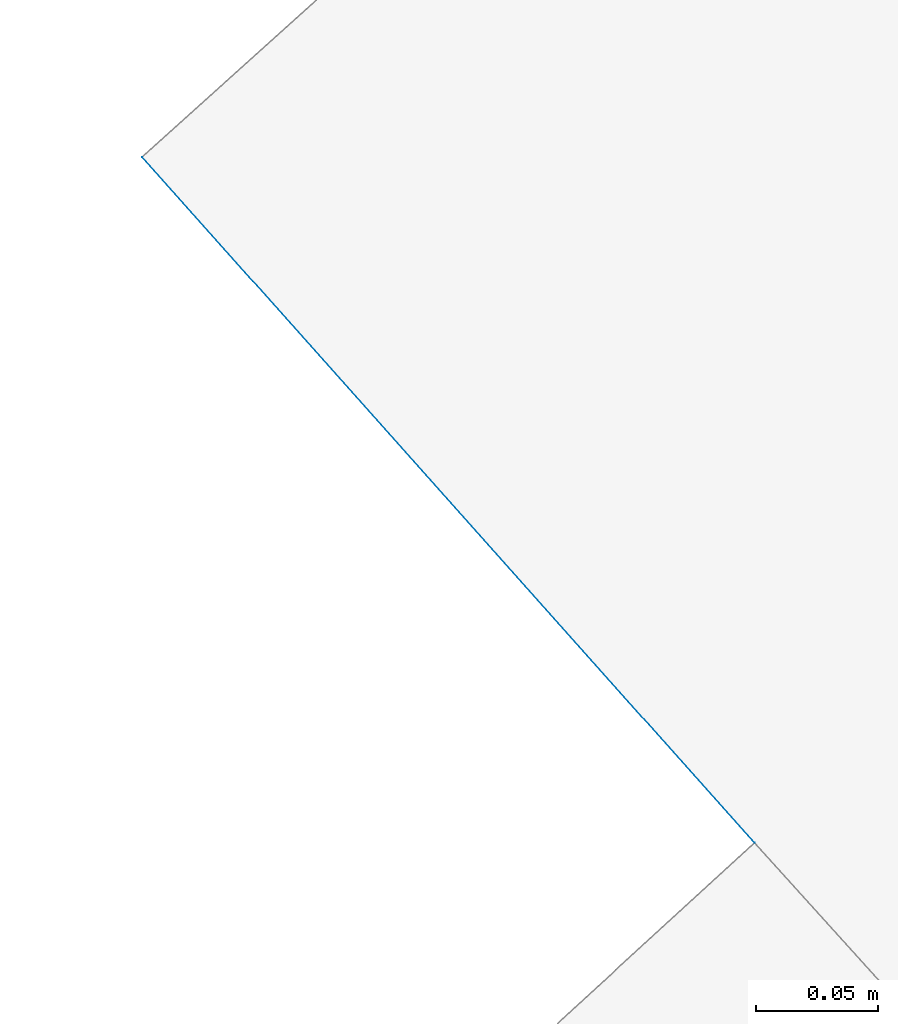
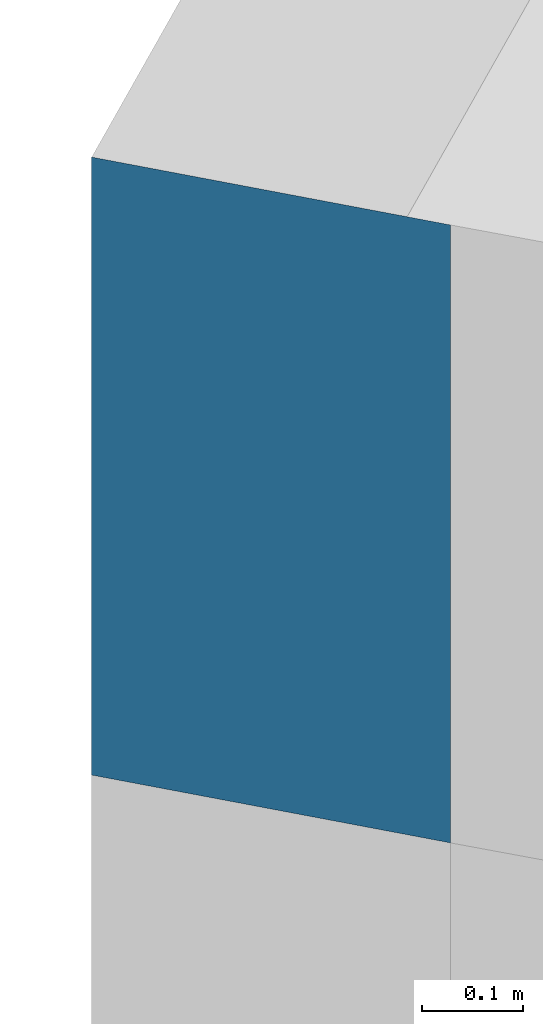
# Not in any storey, part 87 of 136: 2 walls.
"""IFC2X3 building model written with IfcOpenShell, lengths in metres."""

import ifcopenshell
import ifcopenshell.guid

model = None  # the IFC model being written
_history = None  # IfcOwnerHistory: only IFC2X3 demands one
_inside = {}  # id of a spatial element -> (the spatial element, [elements in it])
_under = {}  # id of a project, library or spatial element -> (it, [spatial elements below it])
_declared = {}  # id of a project -> (the project, [libraries it declares])
_typed = {}  # id of a type object -> (the type object, [elements of that type])
_made_of = {}  # id of a material, layer set ... -> (it, [elements and type objects made of it])


def new_model(schema):
    """Start an empty IFC model of exactly this schema.

    Asked for "IFC4X3", IfcOpenShell would pick the latest addendum, in which some entities
    have other attributes; the version numbers below select the first issue.
    IFC2X3 requires an IfcOwnerHistory on every rooted entity: one is made here for all.
    """
    global model, _history
    if schema == "IFC4X3":
        model = ifcopenshell.file(schema_version=(4, 3, 0, 0))
    else:
        model = ifcopenshell.file(schema=schema)
    _inside.clear()
    _under.clear()
    _declared.clear()
    _typed.clear()
    _made_of.clear()
    _history = None
    if model.schema == "IFC2X3":
        org = make("IfcOrganization", Name="unknown")
        user = make(
            "IfcPersonAndOrganization",
            ThePerson=make("IfcPerson", FamilyName="unknown"),
            TheOrganization=org,
        )
        app = make(
            "IfcApplication",
            ApplicationDeveloper=org,
            Version="unknown",
            ApplicationFullName="unknown",
            ApplicationIdentifier="unknown",
        )
        _history = make(
            "IfcOwnerHistory",
            OwningUser=user,
            OwningApplication=app,
            ChangeAction="ADDED",
            CreationDate=0,
        )
    return model


def make(cls, **values):
    """One entity of the class cls with the attributes given. An attribute that is None is left unset."""
    return model.create_entity(
        cls, **{name: value for name, value in values.items() if value is not None}
    )


def entity(cls, *values):
    """Any entity or typed value of the class cls, its attributes in the order of the schema. None: left unset."""
    e = model.create_entity(cls)
    for i, value in enumerate(values):
        if value is not None:
            e[i] = value
    return e


def rooted(cls, **values):
    """An entity with a GlobalId (a new one), such as an element, a storey or a relation."""
    return make(cls, GlobalId=ifcopenshell.guid.new(), OwnerHistory=_history, **values)


def si_unit(unit_type, name, prefix=None):
    """IfcSIUnit, for example si_unit("LENGTHUNIT", "METRE", prefix="MILLI")."""
    return make("IfcSIUnit", UnitType=unit_type, Prefix=prefix, Name=name)


def converted_unit(unit_type, name, factor, base, dimensions=None, offset=None):
    """IfcConversionBasedUnit, such as the inch: factor (a typed value) times the base unit."""
    return make(
        "IfcConversionBasedUnit"
        if offset is None
        else "IfcConversionBasedUnitWithOffset",
        ConversionOffset=offset,
        Dimensions=None
        if dimensions is None
        else entity("IfcDimensionalExponents", *dimensions),
        UnitType=unit_type,
        Name=name,
        ConversionFactor=make(
            "IfcMeasureWithUnit", ValueComponent=factor, UnitComponent=base
        ),
    )


def assignment(units):
    """IfcUnitAssignment: the units of a project."""
    return None if units is None else make("IfcUnitAssignment", Units=units)


def point(xyz):
    """IfcCartesianPoint."""
    return None if xyz is None else make("IfcCartesianPoint", Coordinates=xyz)


def direction(xyz):
    """IfcDirection."""
    return None if xyz is None else make("IfcDirection", DirectionRatios=xyz)


def frame(location, z_axis=None, x_axis=None):
    """IfcAxis2Placement3D, a coordinate frame: its origin and axes. An axis left out is left unset."""
    return make(
        "IfcAxis2Placement3D",
        Location=point(location),
        Axis=direction(z_axis),
        RefDirection=direction(x_axis),
    )


def origin():
    """The frame at (0, 0, 0) with its axes left unset."""
    return frame((0.0, 0.0, 0.0))


def place(relative_to, where):
    """IfcLocalPlacement: puts the frame where relative to a parent placement (None: the world)."""
    return make(
        "IfcLocalPlacement", PlacementRelTo=relative_to, RelativePlacement=where
    )


def context(
    kind, dimensions, precision=None, world=None, true_north=None, identifier=None
):
    """IfcGeometricRepresentationContext, for example the 3D "Model" context."""
    return make(
        "IfcGeometricRepresentationContext",
        ContextIdentifier=identifier,
        ContextType=kind,
        CoordinateSpaceDimension=dimensions,
        Precision=precision,
        WorldCoordinateSystem=world,
        TrueNorth=true_north,
    )


def subcontext(parent, identifier, kind, view, scale=None):
    """IfcGeometricRepresentationSubContext, for example "Body" below "Model"."""
    return make(
        "IfcGeometricRepresentationSubContext",
        ContextIdentifier=identifier,
        ContextType=kind,
        ParentContext=parent,
        TargetScale=scale,
        TargetView=view,
    )


def project(units=None, contexts=None):
    """IfcProject with its units and contexts."""
    return rooted(
        "IfcProject",
        Name="project",
        RepresentationContexts=contexts,
        UnitsInContext=assignment(units),
    )


def spatial(cls, under=None, at=None, **own):
    """A site, building, storey or space (cls), placed at a placement, below another one or the project."""
    s = rooted(cls, ObjectPlacement=at, **own)
    if under is not None:
        _under.setdefault(under.id(), (under, []))[1].append(s)
    return s


def faces_of(points, faces, orient=None, outer=None):
    """IfcFace entities. A face is a list of loops; a loop is a list of indices into points, from 0.

    orient and outer hold one flag for each loop. By default every Orientation is true, the
    first loop of a face is its IfcFaceOuterBound and the others are IfcFaceBound.
    """
    made = []
    for i, loops in enumerate(faces):
        bounds = []
        for j, loop in enumerate(loops):
            is_outer = j == 0 if outer is None else outer[i][j]
            bounds.append(
                make(
                    "IfcFaceOuterBound" if is_outer else "IfcFaceBound",
                    Bound=make("IfcPolyLoop", Polygon=[points[k] for k in loop]),
                    Orientation=True if orient is None else orient[i][j],
                )
            )
        made.append(make("IfcFace", Bounds=bounds))
    return made


def face_set(faces, orient=None, outer=None):
    """The faces of one IfcConnectedFaceSet. surface_model builds it on its shared points."""
    return ("IfcConnectedFaceSet", faces, orient, outer)


def surface_model(cls, points, shells):
    """IfcFaceBasedSurfaceModel or IfcShellBasedSurfaceModel (cls): surfaces that need not close."""
    shared = [point(p) for p in points]
    made = [make(c, CfsFaces=faces_of(shared, fs, o, b)) for c, fs, o, b in shells]
    if cls == "IfcFaceBasedSurfaceModel":
        return make(cls, FbsmFaces=made)
    return make(cls, SbsmBoundary=made)


def shape(context_of_items, identifier, shape_type, items):
    """IfcShapeRepresentation: the items that make up one representation, for example the "Body"."""
    return make(
        "IfcShapeRepresentation",
        ContextOfItems=context_of_items,
        RepresentationIdentifier=identifier,
        RepresentationType=shape_type,
        Items=items,
    )


def made_of(thing, what):
    """Note that an element or type object is made of a material, layer set ...; save() writes the relation."""
    if what is not None:
        _made_of.setdefault(what.id(), (what, []))[1].append(thing)
    return thing


def element(
    cls,
    number,
    at=None,
    inside=None,
    cuts=None,
    type_object=None,
    material=None,
    context=None,
    identifier="Body",
    shape_type=None,
    held_by="IfcProductDefinitionShape",
    body=None,
    shapes=None,
    **own,
):
    """One element of the class cls, such as IfcWall. Its Tag is "e" and its number.

    at: its placement. inside: the storey or other place that contains it. cuts: it is an
    opening in that element (IfcRelVoidsElement). A single representation is given by context,
    identifier, shape_type and body (its items); several are given by shapes. held_by: the class
    of the entity that holds the representations. save() writes the other relations.
    """
    e = rooted(cls, Tag="e%d" % number, ObjectPlacement=at, **own)
    if body is not None:
        shapes = [shape(context, identifier, shape_type, body)]
    if shapes is not None:
        e.Representation = make(held_by, Representations=shapes)
    if inside is not None:
        _inside.setdefault(inside.id(), (inside, []))[1].append(e)
    if cuts is not None:
        rooted(
            "IfcRelVoidsElement", RelatingBuildingElement=cuts, RelatedOpeningElement=e
        )
    if type_object is not None:
        _typed.setdefault(type_object.id(), (type_object, []))[1].append(e)
    return made_of(e, material)


def aggregate(whole, parts):
    """IfcRelAggregates: a whole, such as a stair, and the parts it consists of."""
    return rooted("IfcRelAggregates", RelatingObject=whole, RelatedObjects=parts)


def save(model, path):
    """Write the relations noted so far, then the file.

    IfcRelAggregates (storeys below a building ...), IfcRelContainedInSpatialStructure (elements
    in a storey), IfcRelDefinesByType, IfcRelAssociatesMaterial and IfcRelDeclares: one each for
    every whole, place, type object, material and project.
    """
    for whole, parts in _under.values():
        aggregate(whole, parts)
    for where, things in _inside.values():
        rooted(
            "IfcRelContainedInSpatialStructure",
            RelatedElements=things,
            RelatingStructure=where,
        )
    for kind, things in _typed.values():
        rooted("IfcRelDefinesByType", RelatedObjects=things, RelatingType=kind)
    for what, things in _made_of.values():
        rooted("IfcRelAssociatesMaterial", RelatedObjects=things, RelatingMaterial=what)
    for by, libraries in _declared.values():
        rooted("IfcRelDeclares", RelatingContext=by, RelatedDefinitions=libraries)
    model.write(path)


model = new_model("IFC2X3")

# Units and contexts
model_context = context("Model", 3, precision=1e-05, world=origin())
body_context = subcontext(model_context, "Body", "Model", "MODEL_VIEW")
ifc_project = project(units=[converted_unit("PLANEANGLEUNIT", "DEGREE", entity("IfcRatioMeasure", 0.0174532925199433), si_unit("PLANEANGLEUNIT", "RADIAN"), dimensions=[0, 0, 0, 0, 0, 0, 0]), si_unit("AREAUNIT", "SQUARE_METRE"), si_unit("LENGTHUNIT", "METRE")], contexts=[model_context])

# Site, building
site_placement = place(None, origin())
site = spatial("IfcSite", under=ifc_project, at=site_placement, Name="_site", CompositionType="ELEMENT")
building_placement = place(site_placement, origin())
building = spatial("IfcBuilding", under=site, at=building_placement, Name="_building", CompositionType="ELEMENT")

# Walls
for number, where, name in (
    (1, (0.0, 0.0, 0.0), "Wall"),
    (2, (0.0, 0.0, 0.0), "Wall"),
):
    element("IfcWall", number, at=place(building_placement, frame(where)), inside=building, Name=name, context=body_context, shape_type="SurfaceModel", body=[
        surface_model("IfcFaceBasedSurfaceModel", [(41.77, -4.14, 53.51), (41.52, -3.86, 53.51), (41.52, -3.86, 54.26), (41.77, -4.14, 54.26)], [face_set([[[0, 1, 2, 3]]])]),
    ])

save(model, "model.ifc")
